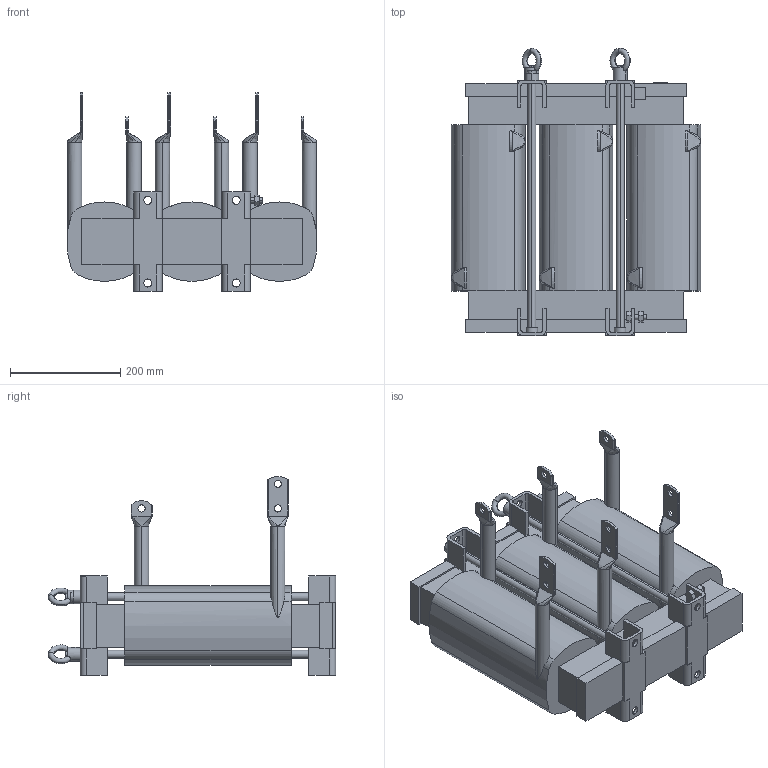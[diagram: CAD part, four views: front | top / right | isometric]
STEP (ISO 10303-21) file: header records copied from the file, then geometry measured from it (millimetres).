
FILE_DESCRIPTION (( 'STEP AP214' ), '1' );
FILE_NAME ('00Z20X0-0030.STEP', '2022-07-06T08:03:26', ( '' ), ( '' ), 'SwSTEP 2.0', 'SolidWorks 2022', '' );
FILE_SCHEMA (( 'AUTOMOTIVE_DESIGN' ));
Length unit declared in the file: centimetre
Products named in the file (1): 00Z20X0-0030
Bounding box: 453 x 521.1 x 360 mm (x, y, z)
Volume: 21040894.8 mm3; surface area: 993188.3 mm2
Topology: 1 solids, 1 shells, 520 faces, 1456 edges, 950 vertices
Faces by surface type: plane 255, cylinder 194, bspline 61, torus 8, cone 2
Entity records: 21471 total; most frequent: CARTESIAN_POINT 8204, ORIENTED_EDGE 2912, DIRECTION 2418, EDGE_CURVE 1456, VERTEX_POINT 950, AXIS2_PLACEMENT_3D 808, VECTOR 802, LINE 802
